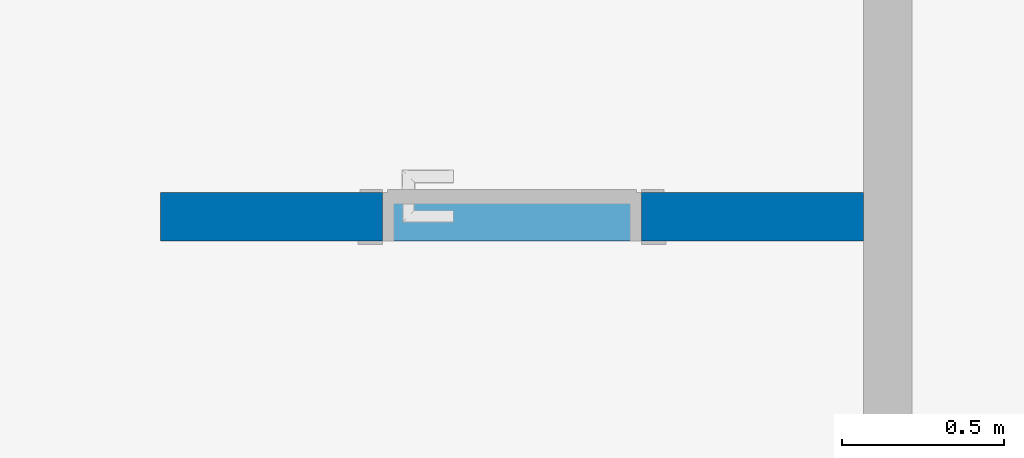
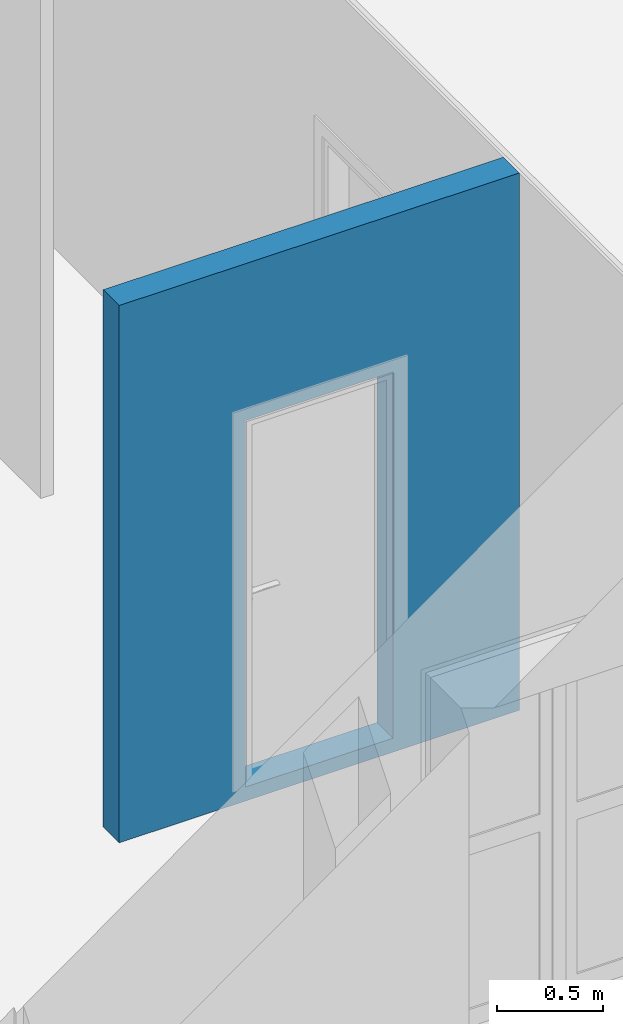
# One storey, part 3 of 11: 1 wall, 1 opening.
"""IFC2X3 building model written with IfcOpenShell, lengths in metres."""

from ifc_helpers import new_model, entity, si_unit, converted_unit, derived_unit, direction, frame, frame_2d, origin, place, context, subcontext, project, spatial, rectangle, extrude, material, layer, layer_set, layer_usage, type_object, element, save


model = new_model("IFC2X3")

# Units and contexts
model_context = context("Model", 3, precision=1e-05, world=origin(), true_north=direction((6.12303176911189e-17, 1.0)))
context_of_model = context(None, 3, precision=1e-05, world=origin(), true_north=direction((6.12303176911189e-17, 1.0)))
body_context = subcontext(model_context, "Body", "Model", "MODEL_VIEW")
ifc_project = project(units=[si_unit("LENGTHUNIT", "METRE"), si_unit("AREAUNIT", "SQUARE_METRE"), si_unit("VOLUMEUNIT", "CUBIC_METRE"), converted_unit("PLANEANGLEUNIT", "DEGREE", entity("IfcRatioMeasure", 0.0174532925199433), si_unit("PLANEANGLEUNIT", "RADIAN"), dimensions=[0, 0, 0, 0, 0, 0, 0]), si_unit("MASSUNIT", "GRAM", prefix="KILO"), si_unit("TIMEUNIT", "SECOND"), si_unit("FREQUENCYUNIT", "HERTZ"), si_unit("THERMODYNAMICTEMPERATUREUNIT", "DEGREE_CELSIUS"), derived_unit("THERMALTRANSMITTANCEUNIT", [(si_unit("MASSUNIT", "GRAM", prefix="KILO"), 1), (si_unit("THERMODYNAMICTEMPERATUREUNIT", "KELVIN"), -1), (si_unit("TIMEUNIT", "SECOND"), -3)]), derived_unit("VOLUMETRICFLOWRATEUNIT", [(si_unit("LENGTHUNIT", "METRE"), 3), (si_unit("TIMEUNIT", "SECOND"), -1)]), si_unit("ELECTRICCURRENTUNIT", "AMPERE"), si_unit("ELECTRICVOLTAGEUNIT", "VOLT"), si_unit("POWERUNIT", "WATT"), si_unit("FORCEUNIT", "NEWTON", prefix="KILO"), si_unit("ILLUMINANCEUNIT", "LUX"), si_unit("LUMINOUSFLUXUNIT", "LUMEN"), si_unit("LUMINOUSINTENSITYUNIT", "CANDELA"), si_unit("PRESSUREUNIT", "PASCAL")], contexts=[model_context, context_of_model])

# Site, building, storey
site_placement = place(None, origin())
site = spatial("IfcSite", under=ifc_project, at=site_placement, Name="Default", CompositionType="ELEMENT")
building_placement = place(site_placement, origin())
building = spatial("IfcBuilding", under=site, at=building_placement, CompositionType="ELEMENT")
storey_placement = place(building_placement, frame((0.0, 0.0, 0.12)))
storey = spatial("IfcBuildingStorey", under=building, at=storey_placement, Name="01.ES.FORJADO PLANTA BAJA", CompositionType="ELEMENT", Elevation=0.12)

# Wall, opening
ifc_material = material(Name="Muro por defecto")
ifc_layer = layer(ifc_material, 0.15)
ifc_layer_set = layer_set([ifc_layer], Name="Muro básico:Por defecto - 15 cm")
ifc_layer_usage = layer_usage(ifc_layer_set, "AXIS2", "POSITIVE", -0.075)
wall_type = type_object("IfcWallType", Name="Muro básico:Por defecto - 15 cm", PredefinedType="STANDARD", material=ifc_layer_set)
wall_placement = place(storey_placement, frame((11.4, 3.10000000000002, 0.0), z_axis=(0.0, 0.0, 1.0), x_axis=(-1.0, 0.0, 0.0)))
wall = element("IfcWallStandardCase", 1, at=wall_placement, inside=storey, type_object=wall_type, material=ifc_layer_usage, Name="Muro básico:Por defecto - 15 cm", ObjectType="Muro básico:Por defecto - 15 cm", context=body_context, shape_type="SweptSolid", body=[
    extrude(rectangle(XDim=2.17000000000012, YDim=0.149999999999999, at=frame_2d((1.08500000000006, 0.0), x_axis=(-1.0, 0.0))), origin(), (0.0, 0.0, 1.0), 3.08),
])
opening_placement = place(wall_placement, frame((1.48500000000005, 0.0749999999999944, 0.0799999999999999)))
element("IfcOpeningElement", 2, at=opening_placement, cuts=wall, Name="Puerta de 1 hoja:80 x 210 cm:1", ObjectType="Opening", context=body_context, shape_type="SweptSolid", body=[
    extrude(rectangle(XDim=2.09999999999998, YDim=0.8, at=frame_2d((1.04999999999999, 0.4), x_axis=(1.0, 0.0))), frame((0.0, 0.0, 0.0), z_axis=(0.0, -1.0, 0.0), x_axis=(0.0, 0.0, 1.0)), (0.0, 0.0, 1.0), 0.15),
])

save(model, "model.ifc")
